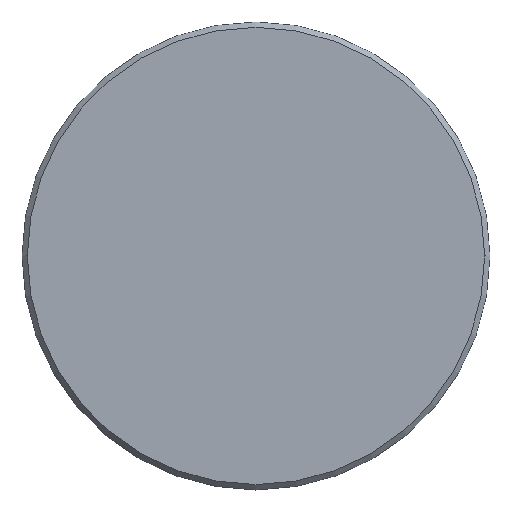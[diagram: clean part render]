
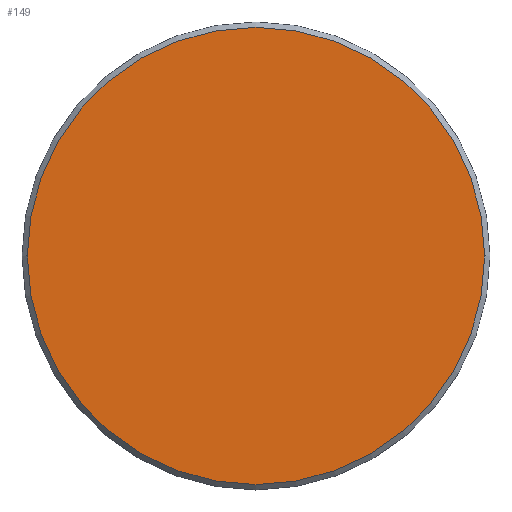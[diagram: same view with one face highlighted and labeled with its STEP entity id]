
A CAD part, top view. The second image highlights one B-rep face of the part: STEP entity #149.
In plain terms, the highlighted planar face has unit normal (0, 0, 1).
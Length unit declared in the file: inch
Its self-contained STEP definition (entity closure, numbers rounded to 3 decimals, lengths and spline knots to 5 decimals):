
#38=CARTESIAN_POINT('',(0.,0.,0.));
#39=DIRECTION('',(0.,0.,1.));
#40=DIRECTION('',(1.,0.,0.));
#41=AXIS2_PLACEMENT_3D('',#38,#39,#40);
#43=CARTESIAN_POINT('',(0.,0.,0.));
#44=DIRECTION('',(0.,0.,1.));
#45=DIRECTION('',(-1.,0.,0.));
#46=AXIS2_PLACEMENT_3D('',#43,#44,#45);
#66=CARTESIAN_POINT('',(1.2825,0.,0.));
#67=CARTESIAN_POINT('',(-1.2825,0.,0.));
#68=VERTEX_POINT('',#66);
#69=VERTEX_POINT('',#67);
#139=CARTESIAN_POINT('',(0.,0.,0.));
#140=DIRECTION('',(0.,0.,-1.));
#141=DIRECTION('',(-1.,0.,0.));
#142=AXIS2_PLACEMENT_3D('',#139,#140,#141);
#143=PLANE('',#142);
#144=ORIENTED_EDGE('',*,*,#129,.F.);
#146=ORIENTED_EDGE('',*,*,#145,.F.);
#147=EDGE_LOOP('',(#144,#146));
#148=FACE_OUTER_BOUND('',#147,.F.);
#149=ADVANCED_FACE('',(#148),#143,.F.);
#42=CIRCLE('',#41,1.2825);
#47=CIRCLE('',#46,1.2825);
#129=EDGE_CURVE('',#68,#69,#42,.T.);
#145=EDGE_CURVE('',#69,#68,#47,.T.);
